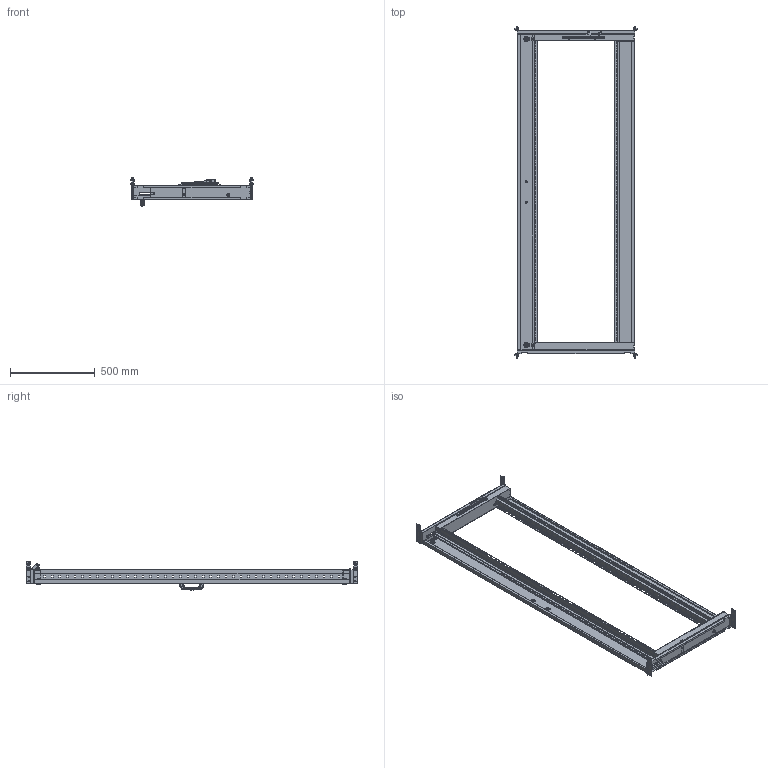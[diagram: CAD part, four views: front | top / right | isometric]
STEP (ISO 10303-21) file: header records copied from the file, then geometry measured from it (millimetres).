
FILE_DESCRIPTION(('Open CASCADE Model'),'2;1');
FILE_NAME('Open CASCADE Shape Model','2025-03-20T11:29:51',('Author'),( 'Open CASCADE'),'Open CASCADE STEP processor 7.8','Open CASCADE 7.8' ,'Unknown');
FILE_SCHEMA(('AUTOMOTIVE_DESIGN { 1 0 10303 214 1 1 1 1 }'));
Length unit declared in the file: millimetre
Products named in the file (36): Compound1; Compound2; Solid1; Solid2; Solid3; Compound3; Solid4; Solid5; Solid6; Solid7; Solid8; Solid9; Solid10; Solid11; Solid12; Solid13; Solid14; Solid15; Solid16; Solid17; Solid18; Compound4; Solid19; Solid20; Solid21; Solid22; Solid23; Solid24; Solid25; Solid26; Solid27; Compound5; Solid28; Solid29; Solid30; Solid31
Assembly tree (57 placements, depth 3):
  Compound1
    Compound2
      Solid1
      Solid2  x2
      Solid3
    Compound3
      Solid4
      Solid2  x2
      Solid3
    Solid5  x2
    Solid6  x2
    Solid7
    Solid8
    Solid9
    Solid10
    Solid11
    Solid12
    Solid13  x2
    Solid14  x4
    Solid15  x8
    Solid16
    Solid17  x2
    Solid18  x2
    Compound4
      Solid19
      Solid20
      Solid21
      Solid22  x2
      Solid23
      Solid24
      Solid25
      Solid26  x2
      Solid27  x2
    Compound5
      Solid28
      Solid29
    Solid30
    Solid31
Bounding box: 726 x 1955 x 165.5 mm (x, y, z)
Volume: 2595942.1 mm3; surface area: 3322892.1 mm2
Topology: 55 solids, 75 shells, 6159 faces, 17288 edges, 11213 vertices
Faces by surface type: plane 4038, cylinder 728, bspline 672, cone 467, torus 176, sphere 78
Entity records: 186643 total; most frequent: CARTESIAN_POINT 60005, ORIENTED_EDGE 27686, DIRECTION 22633, EDGE_CURVE 14022, LINE 10505, VECTOR 10505, VERTEX_POINT 9139, FACE_BOUND 6279
